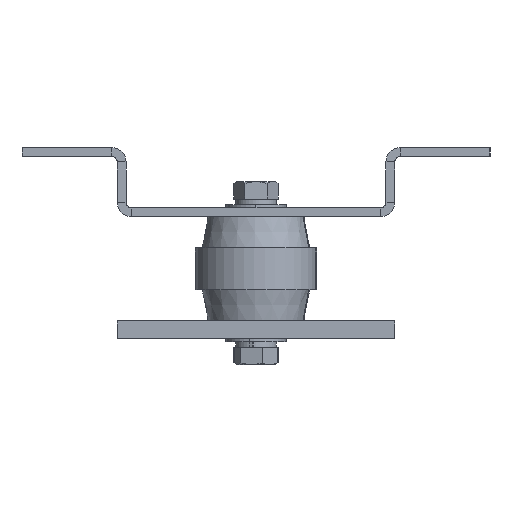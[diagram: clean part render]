
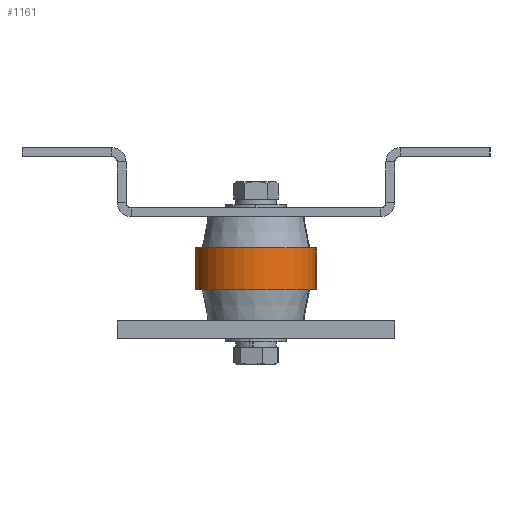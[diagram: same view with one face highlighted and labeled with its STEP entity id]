
A CAD part, left-side view. The second image highlights one B-rep face of the part: STEP entity #1161.
In plain terms, the highlighted cylindrical face has radius 22.225 mm (diameter 44.45 mm), a partial arc.
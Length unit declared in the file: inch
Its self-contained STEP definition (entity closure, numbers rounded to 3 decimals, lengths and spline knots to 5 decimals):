
#1161 = ADVANCED_FACE ( 'NONE', ( #2316 ), #2315, .T. ) ;
#1162 = EDGE_LOOP ( 'NONE', ( #1211, #1214, #1217, #1220 ) ) ;
#1163 = VERTEX_POINT ( 'NONE', #2314 ) ;
#1211 = ORIENTED_EDGE ( 'NONE', *, *, #1212, .T. ) ;
#1212 = EDGE_CURVE ( 'NONE', #1163, #1213, #2350, .T. ) ;
#1213 = VERTEX_POINT ( 'NONE', #2345 ) ;
#1214 = ORIENTED_EDGE ( 'NONE', *, *, #1215, .T. ) ;
#1215 = EDGE_CURVE ( 'NONE', #1213, #1216, #2344, .T. ) ;
#1216 = VERTEX_POINT ( 'NONE', #2340 ) ;
#1217 = ORIENTED_EDGE ( 'NONE', *, *, #1218, .F. ) ;
#1218 = EDGE_CURVE ( 'NONE', #1219, #1216, #2339, .T. ) ;
#1219 = VERTEX_POINT ( 'NONE', #2334 ) ;
#1220 = ORIENTED_EDGE ( 'NONE', *, *, #1221, .F. ) ;
#1221 = EDGE_CURVE ( 'NONE', #1163, #1219, #2333, .T. ) ;
#2310 = DIRECTION ( 'NONE',  ( 0., 0., 1. ) ) ;
#2311 = DIRECTION ( 'NONE',  ( 0., 1., 0. ) ) ;
#2312 = CARTESIAN_POINT ( 'NONE',  ( 0., 0.75, 0. ) ) ;
#2313 = AXIS2_PLACEMENT_3D ( 'NONE', #2312, #2311, #2310 ) ;
#2314 = CARTESIAN_POINT ( 'NONE',  ( 0., -0.3025, 0.875 ) ) ;
#2315 = CYLINDRICAL_SURFACE ( 'NONE', #2313, 0.875 ) ;
#2316 = FACE_OUTER_BOUND ( 'NONE', #1162, .T. ) ;
#2330 = DIRECTION ( 'NONE',  ( 0., 1., 0. ) ) ;
#2331 = VECTOR ( 'NONE', #2330, 39.37008 ) ;
#2332 = CARTESIAN_POINT ( 'NONE',  ( 0., 0.75, 0.875 ) ) ;
#2333 = LINE ( 'NONE', #2332, #2331 ) ;
#2334 = CARTESIAN_POINT ( 'NONE',  ( 0., 0.3025, 0.875 ) ) ;
#2335 = DIRECTION ( 'NONE',  ( 0., 0., 1. ) ) ;
#2336 = DIRECTION ( 'NONE',  ( 0., 1., 0. ) ) ;
#2337 = CARTESIAN_POINT ( 'NONE',  ( 0., 0.3025, 0. ) ) ;
#2338 = AXIS2_PLACEMENT_3D ( 'NONE', #2337, #2336, #2335 ) ;
#2339 = CIRCLE ( 'NONE', #2338, 0.875 ) ;
#2340 = CARTESIAN_POINT ( 'NONE',  ( 0., 0.3025, -0.875 ) ) ;
#2341 = DIRECTION ( 'NONE',  ( 0., 1., 0. ) ) ;
#2342 = VECTOR ( 'NONE', #2341, 39.37008 ) ;
#2343 = CARTESIAN_POINT ( 'NONE',  ( 0., 0.75, -0.875 ) ) ;
#2344 = LINE ( 'NONE', #2343, #2342 ) ;
#2345 = CARTESIAN_POINT ( 'NONE',  ( 0., -0.3025, -0.875 ) ) ;
#2346 = DIRECTION ( 'NONE',  ( 0., 0., 1. ) ) ;
#2347 = DIRECTION ( 'NONE',  ( 0., 1., 0. ) ) ;
#2348 = CARTESIAN_POINT ( 'NONE',  ( 0., -0.3025, 0. ) ) ;
#2349 = AXIS2_PLACEMENT_3D ( 'NONE', #2348, #2347, #2346 ) ;
#2350 = CIRCLE ( 'NONE', #2349, 0.875 ) ;
